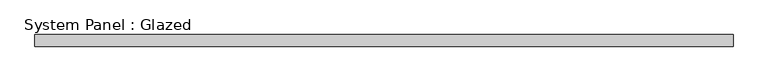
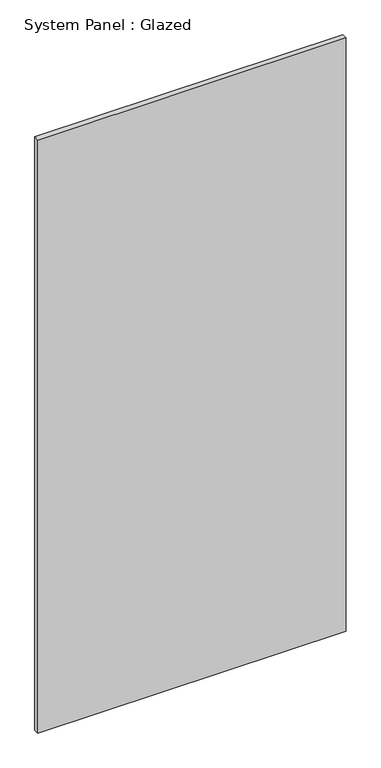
"""IFC4 building model written with IfcOpenShell, lengths in millimetres: plate geometry, System Panel : Glazed."""

from ifc_helpers import new_model, si_unit, origin, origin_with_axes, place, context, project, spatial, polyline, outline, extrude, source, transform, mapped, element, save


def system_panel_glazed_9a901b4a(model_context):
    return source(origin(), model_context, "Body", "SweptSolid", [
        extrude(outline(polyline([(742.95, -44.45), (-742.95, -44.45), (-742.95, -19.05), (742.95, -19.05), (742.95, -44.45)])), origin_with_axes(), (0.0, 0.0, 1.0), 3022.6),
    ])


if __name__ == "__main__":
    model = new_model("IFC4")
    model_context = context("Model", 3, world=origin())
    ifc_project = project(units=[si_unit("LENGTHUNIT", "METRE", prefix="MILLI")], contexts=[model_context])
    site = spatial("IfcSite", under=ifc_project)
    building = spatial("IfcBuilding", under=site)
    placement = place(None, origin())
    system_panel_glazed_shape = system_panel_glazed_9a901b4a(model_context)
    element("IfcPlate", 1, ObjectType="System Panel : Glazed", at=placement, inside=building, context=model_context, shape_type="MappedRepresentation", body=[
        mapped(system_panel_glazed_shape, transform((0.0, 0.0, 0.0), x_axis=(1.0, 0.0, 0.0), y_axis=(0.0, 1.0, 0.0), z_axis=(0.0, 0.0, 1.0))),
    ])
    save(model, "model.ifc")
